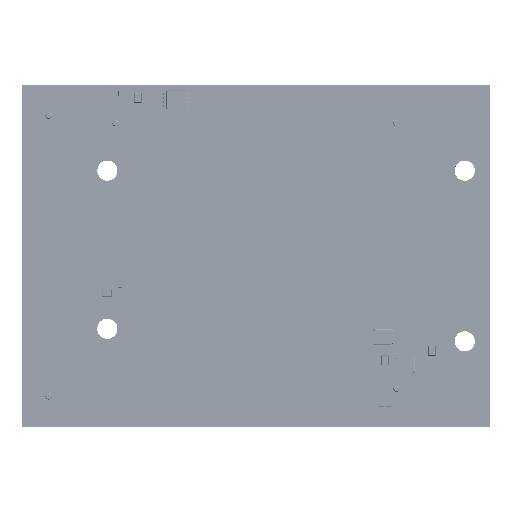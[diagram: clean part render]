
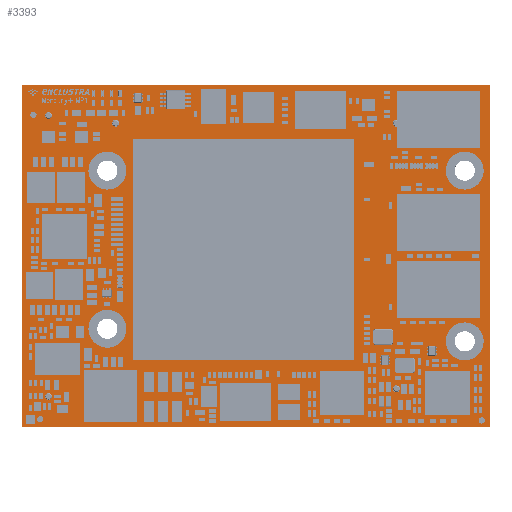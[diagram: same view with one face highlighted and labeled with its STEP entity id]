
A CAD part, top view. The second image highlights one B-rep face of the part: STEP entity #3393.
In plain terms, the highlighted planar face has unit normal (0, 0, 1).
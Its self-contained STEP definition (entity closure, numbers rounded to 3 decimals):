
#2904 = VERTEX_POINT('',#2905);
#2905 = CARTESIAN_POINT('',(0.,0.,1.587));
#2911 = EDGE_CURVE('',#2904,#2912,#2914,.T.);
#2912 = VERTEX_POINT('',#2913);
#2913 = CARTESIAN_POINT('',(74.,0.,1.587));
#2914 = LINE('',#2915,#2916);
#2915 = CARTESIAN_POINT('',(0.,0.,1.587));
#2916 = VECTOR('',#2917,1.);
#2917 = DIRECTION('',(1.,0.,0.));
#2942 = EDGE_CURVE('',#2912,#2943,#2945,.T.);
#2943 = VERTEX_POINT('',#2944);
#2944 = CARTESIAN_POINT('',(74.,54.,1.587));
#2945 = LINE('',#2946,#2947);
#2946 = CARTESIAN_POINT('',(74.,0.,1.587));
#2947 = VECTOR('',#2948,1.);
#2948 = DIRECTION('',(0.,1.,0.));
#2973 = EDGE_CURVE('',#2943,#2974,#2976,.T.);
#2974 = VERTEX_POINT('',#2975);
#2975 = CARTESIAN_POINT('',(0.,54.,1.587));
#2976 = LINE('',#2977,#2978);
#2977 = CARTESIAN_POINT('',(74.,54.,1.587));
#2978 = VECTOR('',#2979,1.);
#2979 = DIRECTION('',(-1.,0.,0.));
#3004 = EDGE_CURVE('',#2974,#2904,#3005,.T.);
#3005 = LINE('',#3006,#3007);
#3006 = CARTESIAN_POINT('',(0.,54.,1.587));
#3007 = VECTOR('',#3008,1.);
#3008 = DIRECTION('',(0.,-1.,0.));
#3028 = VERTEX_POINT('',#3029);
#3029 = CARTESIAN_POINT('',(4.75,4.8,1.587));
#3035 = EDGE_CURVE('',#3028,#3028,#3036,.T.);
#3036 = CIRCLE('',#3037,0.55);
#3037 = AXIS2_PLACEMENT_3D('',#3038,#3039,#3040);
#3038 = CARTESIAN_POINT('',(4.2,4.8,1.587));
#3039 = DIRECTION('',(0.,0.,1.));
#3040 = DIRECTION('',(1.,0.,0.));
#3061 = VERTEX_POINT('',#3062);
#3062 = CARTESIAN_POINT('',(15.35,6.,1.587));
#3068 = EDGE_CURVE('',#3061,#3061,#3069,.T.);
#3069 = CIRCLE('',#3070,0.55);
#3070 = AXIS2_PLACEMENT_3D('',#3071,#3072,#3073);
#3071 = CARTESIAN_POINT('',(14.8,6.,1.587));
#3072 = DIRECTION('',(0.,0.,1.));
#3073 = DIRECTION('',(1.,0.,0.));
#3094 = VERTEX_POINT('',#3095);
#3095 = CARTESIAN_POINT('',(4.75,49.2,1.587));
#3101 = EDGE_CURVE('',#3094,#3094,#3102,.T.);
#3102 = CIRCLE('',#3103,0.55);
#3103 = AXIS2_PLACEMENT_3D('',#3104,#3105,#3106);
#3104 = CARTESIAN_POINT('',(4.2,49.2,1.587));
#3105 = DIRECTION('',(0.,0.,1.));
#3106 = DIRECTION('',(1.,0.,0.));
#3127 = VERTEX_POINT('',#3128);
#3128 = CARTESIAN_POINT('',(15.1,15.5,1.587));
#3134 = EDGE_CURVE('',#3127,#3127,#3135,.T.);
#3135 = CIRCLE('',#3136,1.6);
#3136 = AXIS2_PLACEMENT_3D('',#3137,#3138,#3139);
#3137 = CARTESIAN_POINT('',(13.5,15.5,1.587));
#3138 = DIRECTION('',(0.,0.,1.));
#3139 = DIRECTION('',(1.,0.,0.));
#3160 = VERTEX_POINT('',#3161);
#3161 = CARTESIAN_POINT('',(15.1,40.5,1.587));
#3167 = EDGE_CURVE('',#3160,#3160,#3168,.T.);
#3168 = CIRCLE('',#3169,1.6);
#3169 = AXIS2_PLACEMENT_3D('',#3170,#3171,#3172);
#3170 = CARTESIAN_POINT('',(13.5,40.5,1.587));
#3171 = DIRECTION('',(0.,0.,1.));
#3172 = DIRECTION('',(1.,0.,0.));
#3193 = VERTEX_POINT('',#3194);
#3194 = CARTESIAN_POINT('',(59.75,6.,1.587));
#3200 = EDGE_CURVE('',#3193,#3193,#3201,.T.);
#3201 = CIRCLE('',#3202,0.55);
#3202 = AXIS2_PLACEMENT_3D('',#3203,#3204,#3205);
#3203 = CARTESIAN_POINT('',(59.2,6.,1.587));
#3204 = DIRECTION('',(0.,0.,1.));
#3205 = DIRECTION('',(1.,0.,0.));
#3226 = VERTEX_POINT('',#3227);
#3227 = CARTESIAN_POINT('',(71.6,13.5,1.587));
#3233 = EDGE_CURVE('',#3226,#3226,#3234,.T.);
#3234 = CIRCLE('',#3235,1.6);
#3235 = AXIS2_PLACEMENT_3D('',#3236,#3237,#3238);
#3236 = CARTESIAN_POINT('',(70.,13.5,1.587));
#3237 = DIRECTION('',(0.,0.,1.));
#3238 = DIRECTION('',(1.,0.,0.));
#3259 = VERTEX_POINT('',#3260);
#3260 = CARTESIAN_POINT('',(15.35,48.,1.587));
#3266 = EDGE_CURVE('',#3259,#3259,#3267,.T.);
#3267 = CIRCLE('',#3268,0.55);
#3268 = AXIS2_PLACEMENT_3D('',#3269,#3270,#3271);
#3269 = CARTESIAN_POINT('',(14.8,48.,1.587));
#3270 = DIRECTION('',(0.,0.,1.));
#3271 = DIRECTION('',(1.,0.,0.));
#3292 = VERTEX_POINT('',#3293);
#3293 = CARTESIAN_POINT('',(71.6,40.5,1.587));
#3299 = EDGE_CURVE('',#3292,#3292,#3300,.T.);
#3300 = CIRCLE('',#3301,1.6);
#3301 = AXIS2_PLACEMENT_3D('',#3302,#3303,#3304);
#3302 = CARTESIAN_POINT('',(70.,40.5,1.587));
#3303 = DIRECTION('',(0.,0.,1.));
#3304 = DIRECTION('',(1.,0.,0.));
#3325 = VERTEX_POINT('',#3326);
#3326 = CARTESIAN_POINT('',(59.75,48.,1.587));
#3332 = EDGE_CURVE('',#3325,#3325,#3333,.T.);
#3333 = CIRCLE('',#3334,0.55);
#3334 = AXIS2_PLACEMENT_3D('',#3335,#3336,#3337);
#3335 = CARTESIAN_POINT('',(59.2,48.,1.587));
#3336 = DIRECTION('',(0.,0.,1.));
#3337 = DIRECTION('',(1.,0.,0.));
#3393 = ADVANCED_FACE('',(#3394,#3400,#3403,#3406,#3409,#3412,#3415,
    #3418,#3421,#3424,#3427),#3430,.F.);
#3394 = FACE_BOUND('',#3395,.T.);
#3395 = EDGE_LOOP('',(#3396,#3397,#3398,#3399));
#3396 = ORIENTED_EDGE('',*,*,#2911,.T.);
#3397 = ORIENTED_EDGE('',*,*,#2942,.T.);
#3398 = ORIENTED_EDGE('',*,*,#2973,.T.);
#3399 = ORIENTED_EDGE('',*,*,#3004,.T.);
#3400 = FACE_BOUND('',#3401,.F.);
#3401 = EDGE_LOOP('',(#3402));
#3402 = ORIENTED_EDGE('',*,*,#3035,.T.);
#3403 = FACE_BOUND('',#3404,.F.);
#3404 = EDGE_LOOP('',(#3405));
#3405 = ORIENTED_EDGE('',*,*,#3068,.T.);
#3406 = FACE_BOUND('',#3407,.F.);
#3407 = EDGE_LOOP('',(#3408));
#3408 = ORIENTED_EDGE('',*,*,#3101,.T.);
#3409 = FACE_BOUND('',#3410,.F.);
#3410 = EDGE_LOOP('',(#3411));
#3411 = ORIENTED_EDGE('',*,*,#3134,.T.);
#3412 = FACE_BOUND('',#3413,.F.);
#3413 = EDGE_LOOP('',(#3414));
#3414 = ORIENTED_EDGE('',*,*,#3167,.T.);
#3415 = FACE_BOUND('',#3416,.F.);
#3416 = EDGE_LOOP('',(#3417));
#3417 = ORIENTED_EDGE('',*,*,#3200,.T.);
#3418 = FACE_BOUND('',#3419,.F.);
#3419 = EDGE_LOOP('',(#3420));
#3420 = ORIENTED_EDGE('',*,*,#3233,.T.);
#3421 = FACE_BOUND('',#3422,.F.);
#3422 = EDGE_LOOP('',(#3423));
#3423 = ORIENTED_EDGE('',*,*,#3266,.T.);
#3424 = FACE_BOUND('',#3425,.F.);
#3425 = EDGE_LOOP('',(#3426));
#3426 = ORIENTED_EDGE('',*,*,#3299,.T.);
#3427 = FACE_BOUND('',#3428,.F.);
#3428 = EDGE_LOOP('',(#3429));
#3429 = ORIENTED_EDGE('',*,*,#3332,.T.);
#3430 = PLANE('',#3431);
#3431 = AXIS2_PLACEMENT_3D('',#3432,#3433,#3434);
#3432 = CARTESIAN_POINT('',(0.,0.,1.587));
#3433 = DIRECTION('',(0.,0.,-1.));
#3434 = DIRECTION('',(-1.,0.,0.));
